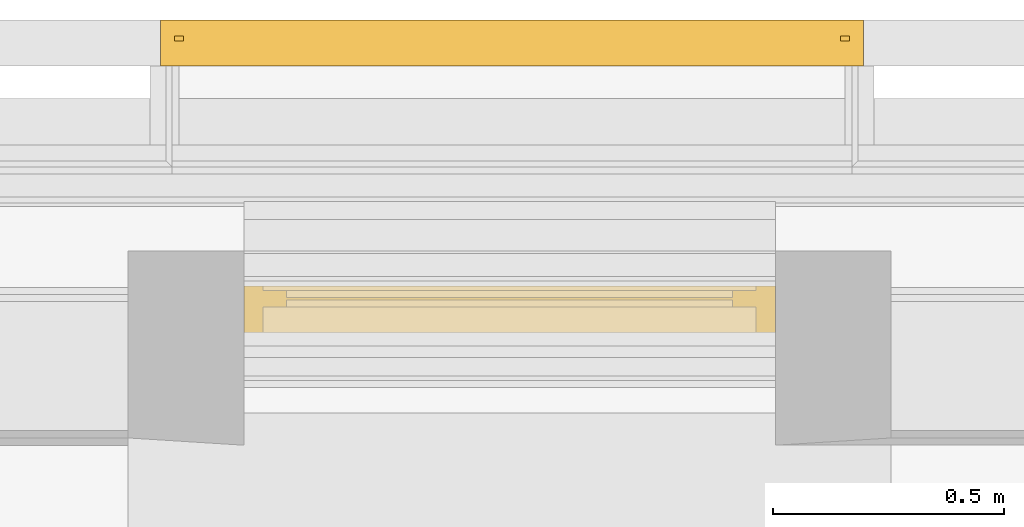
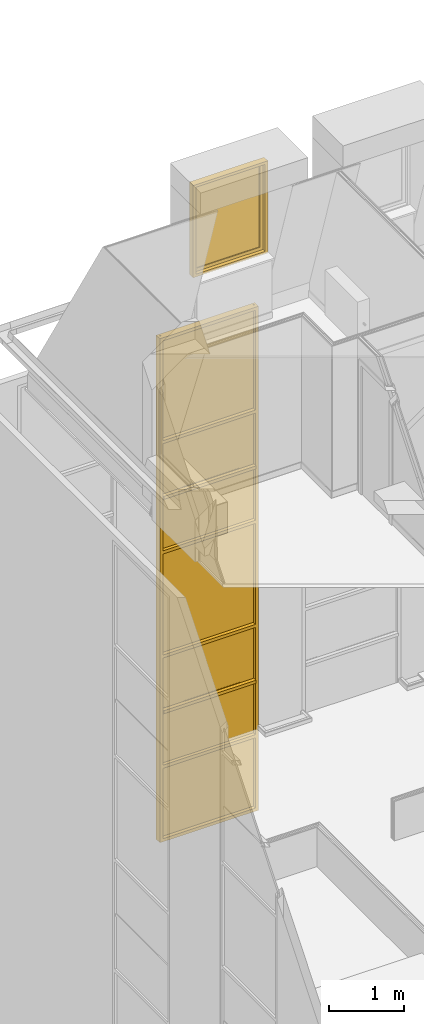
# One storey, part 110 of 169: 1 curtain wall, 1 window.
"""IFC2X3 building model written with IfcOpenShell, lengths in metres."""

from ifc_helpers import new_model, entity, si_unit, converted_unit, derived_unit, money_unit, direction, frame, origin_with_axes, place, context, subcontext, project, spatial, faceted_brep, material, type_object, element, save


model = new_model("IFC2X3")

# Units and contexts
model_context = context("Model", 3, precision=1e-05, world=origin_with_axes(), true_north=direction((0.0, 1.0)))
body_context = subcontext(model_context, "Body", "Model", "MODEL_VIEW", scale=1.0)
ifc_project = project(units=[si_unit("LENGTHUNIT", "METRE"), si_unit("AREAUNIT", "SQUARE_METRE"), si_unit("VOLUMEUNIT", "CUBIC_METRE"), si_unit("ABSORBEDDOSEUNIT", "GRAY"), si_unit("AMOUNTOFSUBSTANCEUNIT", "MOLE"), si_unit("DOSEEQUIVALENTUNIT", "SIEVERT"), si_unit("ELECTRICCAPACITANCEUNIT", "FARAD"), si_unit("ELECTRICCHARGEUNIT", "COULOMB"), si_unit("ELECTRICCONDUCTANCEUNIT", "SIEMENS"), si_unit("ELECTRICCURRENTUNIT", "AMPERE"), si_unit("ELECTRICRESISTANCEUNIT", "OHM"), si_unit("ELECTRICVOLTAGEUNIT", "VOLT"), si_unit("ENERGYUNIT", "JOULE"), si_unit("FORCEUNIT", "NEWTON"), si_unit("FREQUENCYUNIT", "HERTZ"), si_unit("ILLUMINANCEUNIT", "LUX"), si_unit("INDUCTANCEUNIT", "HENRY"), si_unit("LUMINOUSFLUXUNIT", "LUMEN"), si_unit("LUMINOUSINTENSITYUNIT", "CANDELA"), si_unit("MAGNETICFLUXDENSITYUNIT", "TESLA"), si_unit("MAGNETICFLUXUNIT", "WEBER"), si_unit("MASSUNIT", "GRAM"), converted_unit("PLANEANGLEUNIT", "degree", entity("IfcReal", 0.0174532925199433), si_unit("PLANEANGLEUNIT", "RADIAN"), dimensions=[0, 0, 0, 0, 0, 0, 0]), si_unit("POWERUNIT", "WATT"), si_unit("PRESSUREUNIT", "PASCAL"), si_unit("RADIOACTIVITYUNIT", "BECQUEREL"), si_unit("SOLIDANGLEUNIT", "STERADIAN"), si_unit("THERMODYNAMICTEMPERATUREUNIT", "KELVIN"), si_unit("TIMEUNIT", "SECOND"), derived_unit("ACCELERATIONUNIT", [(si_unit("LENGTHUNIT", "METRE"), 1), (si_unit("TIMEUNIT", "SECOND"), -2)]), derived_unit("ANGULARVELOCITYUNIT", [(converted_unit("PLANEANGLEUNIT", "degree", entity("IfcReal", 0.0174532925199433), si_unit("PLANEANGLEUNIT", "RADIAN"), dimensions=[0, 0, 0, 0, 0, 0, 0]), 1), (si_unit("TIMEUNIT", "SECOND"), -1)]), derived_unit("CURVATUREUNIT", [(converted_unit("PLANEANGLEUNIT", "degree", entity("IfcReal", 0.0174532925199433), si_unit("PLANEANGLEUNIT", "RADIAN"), dimensions=[0, 0, 0, 0, 0, 0, 0]), 1), (si_unit("LENGTHUNIT", "METRE"), -1)]), derived_unit("DYNAMICVISCOSITYUNIT", [(si_unit("PRESSUREUNIT", "PASCAL"), 1), (si_unit("TIMEUNIT", "SECOND"), 1)]), derived_unit("HEATFLUXDENSITYUNIT", [(si_unit("POWERUNIT", "WATT"), 1), (si_unit("LENGTHUNIT", "METRE"), -2)]), derived_unit("HEATINGVALUEUNIT", [(si_unit("ENERGYUNIT", "JOULE"), 1), (si_unit("MASSUNIT", "GRAM"), -1)]), derived_unit("INTEGERCOUNTRATEUNIT", [(si_unit("TIMEUNIT", "SECOND"), -1)]), derived_unit("IONCONCENTRATIONUNIT", [(si_unit("MASSUNIT", "GRAM"), 1), (si_unit("VOLUMEUNIT", "CUBIC_METRE"), -1)]), derived_unit("ISOTHERMALMOISTURECAPACITYUNIT", [(si_unit("VOLUMEUNIT", "CUBIC_METRE"), 1), (si_unit("MASSUNIT", "GRAM"), -1)]), derived_unit("KINEMATICVISCOSITYUNIT", [(si_unit("AREAUNIT", "SQUARE_METRE"), 1), (si_unit("TIMEUNIT", "SECOND"), -1)]), derived_unit("LINEARFORCEUNIT", [(si_unit("FORCEUNIT", "NEWTON"), 1), (si_unit("LENGTHUNIT", "METRE"), -1)]), derived_unit("LINEARMOMENTUNIT", [(si_unit("FORCEUNIT", "NEWTON"), 1), (si_unit("LENGTHUNIT", "METRE"), -1)]), derived_unit("LINEARSTIFFNESSUNIT", [(si_unit("FORCEUNIT", "NEWTON"), 1), (si_unit("LENGTHUNIT", "METRE"), -1)]), derived_unit("LINEARVELOCITYUNIT", [(si_unit("LENGTHUNIT", "METRE"), 1), (si_unit("TIMEUNIT", "SECOND"), -1)]), derived_unit("LUMINOUSINTENSITYDISTRIBUTIONUNIT", [(si_unit("LUMINOUSINTENSITYUNIT", "CANDELA"), 1), (si_unit("LUMINOUSFLUXUNIT", "LUMEN"), -1)]), derived_unit("MASSDENSITYUNIT", [(si_unit("MASSUNIT", "GRAM"), 1), (si_unit("VOLUMEUNIT", "CUBIC_METRE"), -1)]), derived_unit("MASSFLOWRATEUNIT", [(si_unit("MASSUNIT", "GRAM"), 1), (si_unit("TIMEUNIT", "SECOND"), -1)]), derived_unit("MASSPERLENGTHUNIT", [(si_unit("MASSUNIT", "GRAM"), 1), (si_unit("LENGTHUNIT", "METRE"), -1)]), derived_unit("MODULUSOFELASTICITYUNIT", [(si_unit("FORCEUNIT", "NEWTON"), 1), (si_unit("AREAUNIT", "SQUARE_METRE"), -1)]), derived_unit("MODULUSOFLINEARSUBGRADEREACTIONUNIT", [(si_unit("FORCEUNIT", "NEWTON"), 1), (si_unit("LENGTHUNIT", "METRE"), -2)]), derived_unit("MODULUSOFROTATIONALSUBGRADEREACTIONUNIT", [(si_unit("FORCEUNIT", "NEWTON"), 1), (si_unit("LENGTHUNIT", "METRE"), 1)]), derived_unit("MODULUSOFSUBGRADEREACTIONUNIT", [(si_unit("FORCEUNIT", "NEWTON"), 1), (si_unit("VOLUMEUNIT", "CUBIC_METRE"), -1)]), derived_unit("MOISTUREDIFFUSIVITYUNIT", [(si_unit("VOLUMEUNIT", "CUBIC_METRE"), 1), (si_unit("TIMEUNIT", "SECOND"), -1)]), derived_unit("MOLECULARWEIGHTUNIT", [(si_unit("MASSUNIT", "GRAM"), 1), (si_unit("AMOUNTOFSUBSTANCEUNIT", "MOLE"), -1)]), derived_unit("PLANARFORCEUNIT", [(si_unit("FORCEUNIT", "NEWTON"), 1), (si_unit("LENGTHUNIT", "METRE"), -2)]), derived_unit("ROTATIONALFREQUENCYUNIT", [(si_unit("TIMEUNIT", "SECOND"), -1)]), derived_unit("ROTATIONALMASSUNIT", [(si_unit("MASSUNIT", "GRAM"), 1), (si_unit("LENGTHUNIT", "METRE"), 2)]), derived_unit("ROTATIONALSTIFFNESSUNIT", [(si_unit("FORCEUNIT", "NEWTON"), 1), (si_unit("LENGTHUNIT", "METRE"), 1), (converted_unit("PLANEANGLEUNIT", "degree", entity("IfcReal", 0.0174532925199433), si_unit("PLANEANGLEUNIT", "RADIAN"), dimensions=[0, 0, 0, 0, 0, 0, 0]), -1)]), derived_unit("SECTIONAREAINTEGRALUNIT", [(si_unit("LENGTHUNIT", "METRE"), 5)]), derived_unit("SECTIONMODULUSUNIT", [(si_unit("LENGTHUNIT", "METRE"), 3)]), derived_unit("SHEARMODULUSUNIT", [(si_unit("FORCEUNIT", "NEWTON"), 1), (si_unit("AREAUNIT", "SQUARE_METRE"), -1)]), derived_unit("SOUNDPOWERUNIT", [(si_unit("ENERGYUNIT", "JOULE"), 1), (si_unit("TIMEUNIT", "SECOND"), -1)]), derived_unit("SPECIFICHEATCAPACITYUNIT", [(si_unit("FORCEUNIT", "NEWTON"), 1), (si_unit("MASSUNIT", "GRAM"), -1), (si_unit("THERMODYNAMICTEMPERATUREUNIT", "KELVIN"), -1)]), derived_unit("TEMPERATUREGRADIENTUNIT", [(si_unit("THERMODYNAMICTEMPERATUREUNIT", "KELVIN"), 1), (si_unit("LENGTHUNIT", "METRE"), -1)]), derived_unit("THERMALADMITTANCEUNIT", [(si_unit("POWERUNIT", "WATT"), 1), (si_unit("AREAUNIT", "SQUARE_METRE"), -1), (si_unit("THERMODYNAMICTEMPERATUREUNIT", "KELVIN"), -1)]), derived_unit("THERMALCONDUCTANCEUNIT", [(si_unit("POWERUNIT", "WATT"), 1), (si_unit("LENGTHUNIT", "METRE"), -1), (si_unit("THERMODYNAMICTEMPERATUREUNIT", "KELVIN"), -1)]), derived_unit("THERMALEXPANSIONCOEFFICIENTUNIT", [(si_unit("THERMODYNAMICTEMPERATUREUNIT", "KELVIN"), -1)]), derived_unit("THERMALRESISTANCEUNIT", [(si_unit("AREAUNIT", "SQUARE_METRE"), 1), (si_unit("POWERUNIT", "WATT"), -1)]), derived_unit("THERMALTRANSMITTANCEUNIT", [(si_unit("POWERUNIT", "WATT"), 1), (si_unit("AREAUNIT", "SQUARE_METRE"), -1), (si_unit("THERMODYNAMICTEMPERATUREUNIT", "KELVIN"), -1)]), derived_unit("TORQUEUNIT", [(si_unit("FORCEUNIT", "NEWTON"), 1), (si_unit("LENGTHUNIT", "METRE"), 1)]), derived_unit("VAPORPERMEABILITYUNIT", [(si_unit("MASSUNIT", "GRAM"), 1), (si_unit("TIMEUNIT", "SECOND"), -1)]), derived_unit("VOLUMETRICFLOWRATEUNIT", [(si_unit("VOLUMEUNIT", "CUBIC_METRE"), 1), (si_unit("TIMEUNIT", "SECOND"), -1)]), derived_unit("WARPINGCONSTANTUNIT", [(si_unit("LENGTHUNIT", "METRE"), 6)]), derived_unit("WARPINGMOMENTUNIT", [(si_unit("FORCEUNIT", "NEWTON"), 1), (si_unit("LENGTHUNIT", "METRE"), 2)]), money_unit("GBP")], contexts=[model_context])

# Site, building, storey
site_placement = place(None, origin_with_axes())
site = spatial("IfcSite", under=ifc_project, at=site_placement, Name="Site", CompositionType="ELEMENT")
building_placement = place(site_placement, origin_with_axes())
building = spatial("IfcBuilding", under=site, at=building_placement, Name="Building01", CompositionType="ELEMENT")
storey_placement = place(building_placement, frame((0.0, 0.0, 5.15), z_axis=(0.0, 0.0, 1.0), x_axis=(1.0, 0.0, 0.0)))
storey = spatial("IfcBuildingStorey", under=building, at=storey_placement, Name="1F", CompositionType="ELEMENT", Elevation=5.15)

# Curtain wall
ifc_material_1 = material(Name="A-CurtainWall_Frame")
curtain_wall_type = type_object("IfcCurtainWallType", Name="Pattern - Maximum Spacing", PredefinedType="NOTDEFINED")
curtain_wall_placement = place(storey_placement, frame((0.0, 0.0, -5.15), z_axis=(0.0, 0.0, 1.0), x_axis=(1.0, 0.0, 0.0)))
element("IfcCurtainWall", 1, at=curtain_wall_placement, inside=storey, type_object=curtain_wall_type, material=ifc_material_1, Name="11", ObjectType="Pattern - Maximum Spacing", context=body_context, shape_type="Brep", body=[
    faceted_brep([(4.38, 14.855, 7.716517), (4.38, 14.865, 7.716517), (2.92, 14.865, 7.716517), (2.92, 14.855, 7.716517), (4.38, 14.855, 6.530918), (4.38, 14.865, 6.530918), (2.92, 14.855, 6.530918), (2.92, 14.865, 6.530918)], [[[0, 1, 2, 3]], [[4, 5, 1, 0]], [[6, 7, 5, 4]], [[3, 2, 7, 6]], [[1, 5, 7, 2]], [[3, 6, 4, 0]]]),
    faceted_brep([(2.89, 14.9, 6.500918), (2.94, 14.9, 6.500918), (2.94, 14.865, 6.500918), (2.92, 14.865, 6.500918), (2.92, 14.855, 6.500918), (2.94, 14.855, 6.500918), (2.94, 14.8, 6.500918), (2.89, 14.8, 6.500918), (2.89, 14.8, 7.721517), (2.89, 14.9, 7.721517), (2.94, 14.9, 7.721517), (2.94, 14.865, 7.721517), (2.92, 14.865, 7.721517), (2.92, 14.855, 7.721517), (2.94, 14.855, 7.721517), (2.94, 14.8, 7.721517)], [[[0, 1, 2, 3, 4, 5, 6, 7]], [[7, 8, 9, 0]], [[0, 9, 10, 1]], [[1, 10, 11, 2]], [[2, 11, 12, 3]], [[3, 12, 13, 4]], [[4, 13, 14, 5]], [[5, 14, 15, 6]], [[6, 15, 8, 7]]]),
    faceted_brep([(4.36, 14.9, 6.550918), (4.36, 14.865, 6.550918), (4.36, 14.865, 6.530918), (4.36, 14.855, 6.530918), (4.36, 14.855, 6.550918), (4.36, 14.8, 6.550918), (4.36, 14.8, 6.500918), (4.36, 14.9, 6.500918), (2.94, 14.9, 6.500918), (2.94, 14.9, 6.550918), (2.94, 14.865, 6.550918), (2.94, 14.865, 6.530918), (2.94, 14.855, 6.530918), (2.94, 14.855, 6.550918), (2.94, 14.8, 6.550918), (2.94, 14.8, 6.500918)], [[[0, 1, 2, 3, 4, 5, 6, 7]], [[7, 8, 9, 0]], [[0, 9, 10, 1]], [[1, 10, 11, 2]], [[2, 11, 12, 3]], [[3, 12, 13, 4]], [[4, 13, 14, 5]], [[5, 14, 15, 6]], [[6, 15, 8, 7]], [[8, 15, 14, 13, 12, 11, 10, 9]]]),
    faceted_brep([(4.41, 14.9, 6.500918), (4.41, 14.9, 7.721517), (4.41, 14.8, 7.721517), (4.41, 14.8, 6.500918), (4.36, 14.9, 6.500918), (4.36, 14.9, 7.721517), (4.36, 14.865, 6.500918), (4.36, 14.865, 7.721517), (4.38, 14.865, 6.500918), (4.38, 14.865, 7.721517), (4.38, 14.855, 6.500918), (4.38, 14.855, 7.721517), (4.36, 14.855, 6.500918), (4.36, 14.855, 7.721517), (4.36, 14.8, 6.500918), (4.36, 14.8, 7.721517)], [[[0, 1, 2, 3]], [[4, 5, 1, 0]], [[6, 7, 5, 4]], [[8, 9, 7, 6]], [[10, 11, 9, 8]], [[12, 13, 11, 10]], [[14, 15, 13, 12]], [[3, 2, 15, 14]], [[14, 12, 10, 8, 6, 4, 0, 3]]]),
    faceted_brep([(2.94, 14.855, 7.726517), (2.94, 14.865, 7.726517), (2.94, 14.865, 7.746517), (2.94, 14.9, 7.746517), (2.94, 14.9, 7.696517), (2.94, 14.865, 7.696517), (2.94, 14.865, 7.716517), (2.94, 14.855, 7.716517), (2.94, 14.855, 7.696517), (2.94, 14.8, 7.696517), (2.94, 14.8, 7.746517), (2.94, 14.855, 7.746517), (4.36, 14.855, 7.746517), (4.36, 14.855, 7.726517), (4.36, 14.865, 7.726517), (4.36, 14.865, 7.746517), (4.36, 14.9, 7.746517), (4.36, 14.9, 7.696517), (4.36, 14.865, 7.696517), (4.36, 14.855, 7.716517), (4.36, 14.855, 7.696517), (4.36, 14.865, 7.716517), (4.36, 14.8, 7.746517), (4.36, 14.8, 7.696517)], [[[0, 1, 2, 3, 4, 5, 6, 7, 8, 9, 10, 11]], [[11, 12, 13, 0]], [[0, 13, 14, 1]], [[1, 14, 15, 2]], [[2, 15, 16, 3]], [[3, 16, 17, 4]], [[4, 17, 18, 5]], [[7, 19, 20, 8]], [[6, 21, 19, 7]], [[5, 18, 21, 6]], [[10, 22, 12, 11]], [[9, 23, 22, 10]], [[8, 20, 23, 9]], [[20, 19, 21, 18, 17, 16, 15, 14, 13, 12, 22, 23]]]),
    faceted_brep([(4.38, 14.85, 8.613217), (4.38, 14.87, 8.613217), (2.92, 14.87, 8.613217), (2.92, 14.85, 8.613217), (4.38, 14.85, 7.726517), (4.38, 14.87, 7.726517), (2.92, 14.85, 7.726517), (2.92, 14.87, 7.726517)], [[[0, 1, 2, 3]], [[4, 5, 1, 0]], [[6, 7, 5, 4]], [[3, 2, 7, 6]], [[1, 5, 7, 2]], [[3, 6, 4, 0]]]),
    faceted_brep([(2.94, 14.8, 8.618217), (2.94, 14.8, 7.721517), (2.94, 14.855, 7.721517), (2.94, 14.855, 8.618217), (2.89, 14.8, 8.618217), (2.89, 14.8, 7.721517), (2.89, 14.9, 8.618217), (2.89, 14.9, 7.721517), (2.94, 14.9, 8.618217), (2.94, 14.9, 7.721517), (2.94, 14.865, 8.618217), (2.94, 14.865, 7.721517), (2.92, 14.865, 8.618217), (2.92, 14.865, 7.721517), (2.92, 14.855, 8.618217), (2.92, 14.855, 7.721517)], [[[0, 1, 2, 3]], [[4, 5, 1, 0]], [[6, 7, 5, 4]], [[8, 9, 7, 6]], [[10, 11, 9, 8]], [[12, 13, 11, 10]], [[14, 15, 13, 12]], [[3, 2, 15, 14]]]),
    faceted_brep([(4.41, 14.9, 7.721517), (4.41, 14.9, 8.618217), (4.41, 14.8, 8.618217), (4.41, 14.8, 7.721517), (4.36, 14.9, 7.721517), (4.36, 14.9, 8.618217), (4.36, 14.865, 7.721517), (4.36, 14.865, 8.618217), (4.38, 14.865, 7.721517), (4.38, 14.865, 8.618217), (4.38, 14.855, 7.721517), (4.38, 14.855, 8.618217), (4.36, 14.855, 7.721517), (4.36, 14.855, 8.618217), (4.36, 14.8, 7.721517), (4.36, 14.8, 8.618217)], [[[0, 1, 2, 3]], [[4, 5, 1, 0]], [[6, 7, 5, 4]], [[8, 9, 7, 6]], [[10, 11, 9, 8]], [[12, 13, 11, 10]], [[14, 15, 13, 12]], [[3, 2, 15, 14]]]),
    faceted_brep([(2.94, 14.8375, 8.623217), (2.94, 14.8475, 8.623217), (2.94, 14.8475, 8.643217), (2.94, 14.8825, 8.643217), (2.94, 14.8825, 8.593217), (2.94, 14.8475, 8.593217), (2.94, 14.8475, 8.613217), (2.94, 14.8375, 8.613217), (2.94, 14.8375, 8.593217), (2.94, 14.7825, 8.593217), (2.94, 14.7825, 8.643217), (2.94, 14.8375, 8.643217), (4.36, 14.8375, 8.643217), (4.36, 14.8375, 8.623217), (4.36, 14.8475, 8.623217), (4.36, 14.8475, 8.643217), (4.36, 14.8825, 8.643217), (4.36, 14.8825, 8.593217), (4.36, 14.8475, 8.593217), (4.36, 14.8375, 8.613217), (4.36, 14.8375, 8.593217), (4.36, 14.8475, 8.613217), (4.36, 14.7825, 8.643217), (4.36, 14.7825, 8.593217)], [[[0, 1, 2, 3, 4, 5, 6, 7, 8, 9, 10, 11]], [[11, 12, 13, 0]], [[0, 13, 14, 1]], [[1, 14, 15, 2]], [[2, 15, 16, 3]], [[3, 16, 17, 4]], [[4, 17, 18, 5]], [[7, 19, 20, 8]], [[6, 21, 19, 7]], [[5, 18, 21, 6]], [[10, 22, 12, 11]], [[9, 23, 22, 10]], [[8, 20, 23, 9]], [[20, 19, 21, 18, 17, 16, 15, 14, 13, 12, 22, 23]]]),
    faceted_brep([(4.38, 14.85, 9.509916), (4.38, 14.87, 9.509916), (2.92, 14.87, 9.509916), (2.92, 14.85, 9.509916), (4.38, 14.85, 8.623217), (4.38, 14.87, 8.623217), (2.92, 14.85, 8.623217), (2.92, 14.87, 8.623217)], [[[0, 1, 2, 3]], [[4, 5, 1, 0]], [[6, 7, 5, 4]], [[3, 2, 7, 6]], [[1, 5, 7, 2]], [[3, 6, 4, 0]]]),
    faceted_brep([(2.94, 14.8, 9.514916), (2.94, 14.8, 8.618217), (2.94, 14.855, 8.618217), (2.94, 14.855, 9.514916), (2.89, 14.8, 9.514916), (2.89, 14.8, 8.618217), (2.89, 14.9, 9.514916), (2.89, 14.9, 8.618217), (2.94, 14.9, 9.514916), (2.94, 14.9, 8.618217), (2.94, 14.865, 9.514916), (2.94, 14.865, 8.618217), (2.92, 14.865, 9.514916), (2.92, 14.865, 8.618217), (2.92, 14.855, 9.514916), (2.92, 14.855, 8.618217)], [[[0, 1, 2, 3]], [[4, 5, 1, 0]], [[6, 7, 5, 4]], [[8, 9, 7, 6]], [[10, 11, 9, 8]], [[12, 13, 11, 10]], [[14, 15, 13, 12]], [[3, 2, 15, 14]]]),
    faceted_brep([(4.41, 14.9, 8.618217), (4.41, 14.9, 9.514916), (4.41, 14.8, 9.514916), (4.41, 14.8, 8.618217), (4.36, 14.9, 8.618217), (4.36, 14.9, 9.514916), (4.36, 14.865, 8.618217), (4.36, 14.865, 9.514916), (4.38, 14.865, 8.618217), (4.38, 14.865, 9.514916), (4.38, 14.855, 8.618217), (4.38, 14.855, 9.514916), (4.36, 14.855, 8.618217), (4.36, 14.855, 9.514916), (4.36, 14.8, 8.618217), (4.36, 14.8, 9.514916)], [[[0, 1, 2, 3]], [[4, 5, 1, 0]], [[6, 7, 5, 4]], [[8, 9, 7, 6]], [[10, 11, 9, 8]], [[12, 13, 11, 10]], [[14, 15, 13, 12]], [[3, 2, 15, 14]]]),
    faceted_brep([(2.94, 14.855, 9.519916), (2.94, 14.865, 9.519916), (2.94, 14.865, 9.539916), (2.94, 14.9, 9.539916), (2.94, 14.9, 9.489916), (2.94, 14.865, 9.489916), (2.94, 14.865, 9.509916), (2.94, 14.855, 9.509916), (2.94, 14.855, 9.489916), (2.94, 14.8, 9.489916), (2.94, 14.8, 9.539916), (2.94, 14.855, 9.539916), (4.36, 14.855, 9.539916), (4.36, 14.855, 9.519916), (4.36, 14.865, 9.519916), (4.36, 14.865, 9.539916), (4.36, 14.9, 9.539916), (4.36, 14.9, 9.489916), (4.36, 14.865, 9.489916), (4.36, 14.855, 9.509916), (4.36, 14.855, 9.489916), (4.36, 14.865, 9.509916), (4.36, 14.8, 9.539916), (4.36, 14.8, 9.489916)], [[[0, 1, 2, 3, 4, 5, 6, 7, 8, 9, 10, 11]], [[11, 12, 13, 0]], [[0, 13, 14, 1]], [[1, 14, 15, 2]], [[2, 15, 16, 3]], [[3, 16, 17, 4]], [[4, 17, 18, 5]], [[7, 19, 20, 8]], [[6, 21, 19, 7]], [[5, 18, 21, 6]], [[10, 22, 12, 11]], [[9, 23, 22, 10]], [[8, 20, 23, 9]], [[20, 19, 21, 18, 17, 16, 15, 14, 13, 12, 22, 23]]]),
    faceted_brep([(4.38, 14.855, 11.203681), (4.38, 14.865, 11.203681), (2.92, 14.865, 11.203681), (2.92, 14.855, 11.203681), (4.38, 14.855, 9.519916), (4.38, 14.865, 9.519916), (2.92, 14.855, 9.519916), (2.92, 14.865, 9.519916)], [[[0, 1, 2, 3]], [[4, 5, 1, 0]], [[6, 7, 5, 4]], [[3, 2, 7, 6]], [[1, 5, 7, 2]], [[3, 6, 4, 0]]]),
    faceted_brep([(2.94, 14.8, 11.208681), (2.94, 14.8, 9.514916), (2.94, 14.855, 9.514916), (2.94, 14.855, 11.208681), (2.89, 14.8, 11.208681), (2.89, 14.8, 9.514916), (2.89, 14.9, 11.208681), (2.89, 14.9, 9.514916), (2.94, 14.9, 11.208681), (2.94, 14.9, 9.514916), (2.94, 14.865, 11.208681), (2.94, 14.865, 9.514916), (2.92, 14.865, 11.208681), (2.92, 14.865, 9.514916), (2.92, 14.855, 11.208681), (2.92, 14.855, 9.514916)], [[[0, 1, 2, 3]], [[4, 5, 1, 0]], [[6, 7, 5, 4]], [[8, 9, 7, 6]], [[10, 11, 9, 8]], [[12, 13, 11, 10]], [[14, 15, 13, 12]], [[3, 2, 15, 14]]]),
    faceted_brep([(4.41, 14.9, 9.514916), (4.41, 14.9, 11.208681), (4.41, 14.8, 11.208681), (4.41, 14.8, 9.514916), (4.36, 14.9, 9.514916), (4.36, 14.9, 11.208681), (4.36, 14.865, 9.514916), (4.36, 14.865, 11.208681), (4.38, 14.865, 9.514916), (4.38, 14.865, 11.208681), (4.38, 14.855, 9.514916), (4.38, 14.855, 11.208681), (4.36, 14.855, 9.514916), (4.36, 14.855, 11.208681), (4.36, 14.8, 9.514916), (4.36, 14.8, 11.208681)], [[[0, 1, 2, 3]], [[4, 5, 1, 0]], [[6, 7, 5, 4]], [[8, 9, 7, 6]], [[10, 11, 9, 8]], [[12, 13, 11, 10]], [[14, 15, 13, 12]], [[3, 2, 15, 14]]]),
    faceted_brep([(2.94, 14.855, 11.213681), (2.94, 14.865, 11.213681), (2.94, 14.865, 11.233681), (2.94, 14.9, 11.233681), (2.94, 14.9, 11.183681), (2.94, 14.865, 11.183681), (2.94, 14.865, 11.203681), (2.94, 14.855, 11.203681), (2.94, 14.855, 11.183681), (2.94, 14.8, 11.183681), (2.94, 14.8, 11.233681), (2.94, 14.855, 11.233681), (4.36, 14.855, 11.233681), (4.36, 14.855, 11.213681), (4.36, 14.865, 11.213681), (4.36, 14.865, 11.233681), (4.36, 14.9, 11.233681), (4.36, 14.9, 11.183681), (4.36, 14.865, 11.183681), (4.36, 14.855, 11.203681), (4.36, 14.855, 11.183681), (4.36, 14.865, 11.203681), (4.36, 14.8, 11.233681), (4.36, 14.8, 11.183681)], [[[0, 1, 2, 3, 4, 5, 6, 7, 8, 9, 10, 11]], [[11, 12, 13, 0]], [[0, 13, 14, 1]], [[1, 14, 15, 2]], [[2, 15, 16, 3]], [[3, 16, 17, 4]], [[4, 17, 18, 5]], [[7, 19, 20, 8]], [[6, 21, 19, 7]], [[5, 18, 21, 6]], [[10, 22, 12, 11]], [[9, 23, 22, 10]], [[8, 20, 23, 9]], [[20, 19, 21, 18, 17, 16, 15, 14, 13, 12, 22, 23]]]),
    faceted_brep([(4.38, 14.85, 12.10038), (4.38, 14.87, 12.10038), (2.92, 14.87, 12.10038), (2.92, 14.85, 12.10038), (4.38, 14.85, 11.213681), (4.38, 14.87, 11.213681), (2.92, 14.85, 11.213681), (2.92, 14.87, 11.213681)], [[[0, 1, 2, 3]], [[4, 5, 1, 0]], [[6, 7, 5, 4]], [[3, 2, 7, 6]], [[1, 5, 7, 2]], [[3, 6, 4, 0]]]),
    faceted_brep([(2.94, 14.8, 12.10538), (2.94, 14.8, 11.208681), (2.94, 14.855, 11.208681), (2.94, 14.855, 12.10538), (2.89, 14.8, 12.10538), (2.89, 14.8, 11.208681), (2.89, 14.9, 12.10538), (2.89, 14.9, 11.208681), (2.94, 14.9, 12.10538), (2.94, 14.9, 11.208681), (2.94, 14.865, 12.10538), (2.94, 14.865, 11.208681), (2.92, 14.865, 12.10538), (2.92, 14.865, 11.208681), (2.92, 14.855, 12.10538), (2.92, 14.855, 11.208681)], [[[0, 1, 2, 3]], [[4, 5, 1, 0]], [[6, 7, 5, 4]], [[8, 9, 7, 6]], [[10, 11, 9, 8]], [[12, 13, 11, 10]], [[14, 15, 13, 12]], [[3, 2, 15, 14]]]),
    faceted_brep([(4.41, 14.9, 11.208681), (4.41, 14.9, 12.10538), (4.41, 14.8, 12.10538), (4.41, 14.8, 11.208681), (4.36, 14.9, 11.208681), (4.36, 14.9, 12.10538), (4.36, 14.865, 11.208681), (4.36, 14.865, 12.10538), (4.38, 14.865, 11.208681), (4.38, 14.865, 12.10538), (4.38, 14.855, 11.208681), (4.38, 14.855, 12.10538), (4.36, 14.855, 11.208681), (4.36, 14.855, 12.10538), (4.36, 14.8, 11.208681), (4.36, 14.8, 12.10538)], [[[0, 1, 2, 3]], [[4, 5, 1, 0]], [[6, 7, 5, 4]], [[8, 9, 7, 6]], [[10, 11, 9, 8]], [[12, 13, 11, 10]], [[14, 15, 13, 12]], [[3, 2, 15, 14]]]),
    faceted_brep([(2.94, 14.8375, 12.11038), (2.94, 14.8475, 12.11038), (2.94, 14.8475, 12.13038), (2.94, 14.8825, 12.13038), (2.94, 14.8825, 12.08038), (2.94, 14.8475, 12.08038), (2.94, 14.8475, 12.10038), (2.94, 14.8375, 12.10038), (2.94, 14.8375, 12.08038), (2.94, 14.7825, 12.08038), (2.94, 14.7825, 12.13038), (2.94, 14.8375, 12.13038), (4.36, 14.8375, 12.13038), (4.36, 14.8375, 12.11038), (4.36, 14.8475, 12.11038), (4.36, 14.8475, 12.13038), (4.36, 14.8825, 12.13038), (4.36, 14.8825, 12.08038), (4.36, 14.8475, 12.08038), (4.36, 14.8375, 12.10038), (4.36, 14.8375, 12.08038), (4.36, 14.8475, 12.10038), (4.36, 14.7825, 12.13038), (4.36, 14.7825, 12.08038)], [[[0, 1, 2, 3, 4, 5, 6, 7, 8, 9, 10, 11]], [[11, 12, 13, 0]], [[0, 13, 14, 1]], [[1, 14, 15, 2]], [[2, 15, 16, 3]], [[3, 16, 17, 4]], [[4, 17, 18, 5]], [[7, 19, 20, 8]], [[6, 21, 19, 7]], [[5, 18, 21, 6]], [[10, 22, 12, 11]], [[9, 23, 22, 10]], [[8, 20, 23, 9]], [[20, 19, 21, 18, 17, 16, 15, 14, 13, 12, 22, 23]]]),
    faceted_brep([(2.92, 14.855, 13.00708), (2.92, 14.865, 13.00708), (4.38, 14.865, 13.00708), (4.38, 14.855, 13.00708), (2.92, 14.855, 14.670918), (2.92, 14.865, 14.670918), (4.38, 14.855, 14.670918), (4.38, 14.865, 14.670918)], [[[0, 1, 2, 3]], [[4, 5, 1, 0]], [[6, 7, 5, 4]], [[3, 2, 7, 6]], [[1, 5, 7, 2]], [[3, 6, 4, 0]]]),
    faceted_brep([(4.41, 14.9, 14.700918), (4.36, 14.9, 14.700918), (4.36, 14.865, 14.700918), (4.38, 14.865, 14.700918), (4.38, 14.855, 14.700918), (4.36, 14.855, 14.700918), (4.36, 14.8, 14.700918), (4.41, 14.8, 14.700918), (4.41, 14.8, 13.00208), (4.41, 14.9, 13.00208), (4.36, 14.9, 13.00208), (4.36, 14.865, 13.00208), (4.38, 14.865, 13.00208), (4.38, 14.855, 13.00208), (4.36, 14.855, 13.00208), (4.36, 14.8, 13.00208)], [[[0, 1, 2, 3, 4, 5, 6, 7]], [[7, 8, 9, 0]], [[0, 9, 10, 1]], [[1, 10, 11, 2]], [[2, 11, 12, 3]], [[3, 12, 13, 4]], [[4, 13, 14, 5]], [[5, 14, 15, 6]], [[6, 15, 8, 7]]]),
    faceted_brep([(2.94, 14.865, 14.670918), (2.94, 14.855, 14.670918), (2.94, 14.855, 14.650918), (2.94, 14.8, 14.650918), (2.94, 14.8, 14.700918), (2.94, 14.9, 14.700918), (2.94, 14.9, 14.650918), (2.94, 14.865, 14.650918), (4.36, 14.865, 14.650918), (4.36, 14.865, 14.670918), (4.36, 14.855, 14.670918), (4.36, 14.855, 14.650918), (4.36, 14.8, 14.650918), (4.36, 14.8, 14.700918), (4.36, 14.9, 14.700918), (4.36, 14.9, 14.650918)], [[[0, 1, 2, 3, 4, 5, 6, 7]], [[7, 8, 9, 0]], [[0, 9, 10, 1]], [[1, 10, 11, 2]], [[2, 11, 12, 3]], [[3, 12, 13, 4]], [[4, 13, 14, 5]], [[5, 14, 15, 6]], [[6, 15, 8, 7]], [[8, 15, 14, 13, 12, 11, 10, 9]]]),
    faceted_brep([(2.89, 14.9, 14.700918), (2.89, 14.9, 13.00208), (2.89, 14.8, 13.00208), (2.89, 14.8, 14.700918), (2.94, 14.9, 14.700918), (2.94, 14.9, 13.00208), (2.94, 14.865, 14.700918), (2.94, 14.865, 13.00208), (2.92, 14.865, 14.700918), (2.92, 14.865, 13.00208), (2.92, 14.855, 14.700918), (2.92, 14.855, 13.00208), (2.94, 14.855, 14.700918), (2.94, 14.855, 13.00208), (2.94, 14.8, 14.700918), (2.94, 14.8, 13.00208)], [[[0, 1, 2, 3]], [[4, 5, 1, 0]], [[6, 7, 5, 4]], [[8, 9, 7, 6]], [[10, 11, 9, 8]], [[12, 13, 11, 10]], [[14, 15, 13, 12]], [[3, 2, 15, 14]], [[14, 12, 10, 8, 6, 4, 0, 3]]]),
    faceted_brep([(4.36, 14.865, 13.00708), (4.36, 14.855, 13.00708), (4.36, 14.855, 13.02708), (4.36, 14.8, 13.02708), (4.36, 14.8, 12.97708), (4.36, 14.855, 12.97708), (4.36, 14.855, 12.99708), (4.36, 14.865, 12.99708), (4.36, 14.865, 12.97708), (4.36, 14.9, 12.97708), (4.36, 14.9, 13.02708), (4.36, 14.865, 13.02708), (2.94, 14.865, 13.02708), (2.94, 14.865, 13.00708), (2.94, 14.855, 13.00708), (2.94, 14.855, 13.02708), (2.94, 14.8, 13.02708), (2.94, 14.8, 12.97708), (2.94, 14.855, 12.97708), (2.94, 14.865, 12.99708), (2.94, 14.865, 12.97708), (2.94, 14.855, 12.99708), (2.94, 14.9, 13.02708), (2.94, 14.9, 12.97708)], [[[0, 1, 2, 3, 4, 5, 6, 7, 8, 9, 10, 11]], [[11, 12, 13, 0]], [[0, 13, 14, 1]], [[1, 14, 15, 2]], [[2, 15, 16, 3]], [[3, 16, 17, 4]], [[4, 17, 18, 5]], [[7, 19, 20, 8]], [[6, 21, 19, 7]], [[5, 18, 21, 6]], [[10, 22, 12, 11]], [[9, 23, 22, 10]], [[8, 20, 23, 9]], [[20, 19, 21, 18, 17, 16, 15, 14, 13, 12, 22, 23]]]),
    faceted_brep([(4.38, 14.85, 12.99708), (4.38, 14.87, 12.99708), (2.92, 14.87, 12.99708), (2.92, 14.85, 12.99708), (4.38, 14.85, 12.11038), (4.38, 14.87, 12.11038), (2.92, 14.85, 12.11038), (2.92, 14.87, 12.11038)], [[[0, 1, 2, 3]], [[4, 5, 1, 0]], [[6, 7, 5, 4]], [[3, 2, 7, 6]], [[1, 5, 7, 2]], [[3, 6, 4, 0]]]),
    faceted_brep([(2.94, 14.8, 13.00208), (2.94, 14.8, 12.10538), (2.94, 14.855, 12.10538), (2.94, 14.855, 13.00208), (2.89, 14.8, 13.00208), (2.89, 14.8, 12.10538), (2.89, 14.9, 13.00208), (2.89, 14.9, 12.10538), (2.94, 14.9, 13.00208), (2.94, 14.9, 12.10538), (2.94, 14.865, 13.00208), (2.94, 14.865, 12.10538), (2.92, 14.865, 13.00208), (2.92, 14.865, 12.10538), (2.92, 14.855, 13.00208), (2.92, 14.855, 12.10538)], [[[0, 1, 2, 3]], [[4, 5, 1, 0]], [[6, 7, 5, 4]], [[8, 9, 7, 6]], [[10, 11, 9, 8]], [[12, 13, 11, 10]], [[14, 15, 13, 12]], [[3, 2, 15, 14]]]),
    faceted_brep([(4.41, 14.9, 12.10538), (4.41, 14.9, 13.00208), (4.41, 14.8, 13.00208), (4.41, 14.8, 12.10538), (4.36, 14.9, 12.10538), (4.36, 14.9, 13.00208), (4.36, 14.865, 12.10538), (4.36, 14.865, 13.00208), (4.38, 14.865, 12.10538), (4.38, 14.865, 13.00208), (4.38, 14.855, 12.10538), (4.38, 14.855, 13.00208), (4.36, 14.855, 12.10538), (4.36, 14.855, 13.00208), (4.36, 14.8, 12.10538), (4.36, 14.8, 13.00208)], [[[0, 1, 2, 3]], [[4, 5, 1, 0]], [[6, 7, 5, 4]], [[8, 9, 7, 6]], [[10, 11, 9, 8]], [[12, 13, 11, 10]], [[14, 15, 13, 12]], [[3, 2, 15, 14]]]),
])

# Space
space_placement = place(storey_placement, frame((1.009939, 13.890379, 9.86), z_axis=(0.0, 0.0, 1.0), x_axis=(0.0, -1.0, 0.0)))
space = spatial("IfcSpace", under=storey, at=space_placement, Name="26", CompositionType="ELEMENT", InteriorOrExteriorSpace="NOTDEFINED")

# Window
ifc_material_2 = material(Name="A_BSUK_Windows")
window_style = type_object("IfcWindowStyle", Name="A-Awning", ConstructionType="NOTDEFINED", OperationType="USERDEFINED", ParameterTakesPrecedence=False, Sizeable=False)
window_placement = place(storey_placement, frame((3.070024, 14.350096, 10.83), z_axis=(0.0, 0.0, 1.0), x_axis=(-1.0, 0.0, 0.0)))
element("IfcWindow", 2, at=window_placement, inside=space, type_object=window_style, material=ifc_material_2, Name="4.14", ObjectType="A-Awning", OverallHeight=1.50000000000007, OverallWidth=1.15000000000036, context=body_context, shape_type="Brep", body=[
    faceted_brep([(-1.108, 0.0254, 0.042), (-0.042, 0.0254, 0.042), (-0.042, 0.1254, 0.042), (-1.108, 0.1254, 0.042), (-1.108, 0.0254, 1.458), (-1.108, 0.1254, 1.458), (-0.042, 0.0254, 1.458), (-0.042, 0.1254, 1.458), (0.0, 0.0254, 0.0), (0.0, 0.0254, 1.5), (-1.15, 0.0254, 1.5), (-1.15, 0.0254, 0.0), (0.0, 0.1254, 1.5), (-1.15, 0.1254, 1.5), (-1.15, 0.1254, 0.0), (0.0, 0.1254, 0.0)], [[[0, 1, 2, 3]], [[4, 0, 3, 5]], [[6, 4, 5, 7]], [[8, 9, 10, 11], [4, 6, 1, 0]], [[1, 6, 7, 2]], [[12, 13, 10, 9]], [[14, 15, 8, 11]], [[13, 14, 11, 10]], [[13, 12, 15, 14], [2, 7, 5, 3]], [[15, 12, 9, 8]]]),
    faceted_brep([(-1.0572, 0.0354, 0.0928), (-0.0928, 0.0354, 0.0928), (-0.0928, 0.0704, 0.0928), (-1.0572, 0.0704, 0.0928), (-1.0572, 0.0354, 1.4072), (-1.0572, 0.0704, 1.4072), (-0.0928, 0.0354, 1.4072), (-0.0928, 0.0704, 1.4072), (-1.108, 0.0704, 1.458), (-0.042, 0.0704, 1.458), (-0.042, 0.0704, 0.042), (-1.108, 0.0704, 0.042), (-1.108, 0.0354, 1.458), (-0.042, 0.0354, 1.458), (-0.042, 0.0354, 0.042), (-1.108, 0.0354, 0.042)], [[[0, 1, 2, 3]], [[4, 0, 3, 5]], [[6, 4, 5, 7]], [[8, 9, 10, 11], [2, 7, 5, 3]], [[9, 8, 12, 13]], [[10, 9, 13, 14]], [[11, 10, 14, 15]], [[8, 11, 15, 12]], [[14, 13, 12, 15], [4, 6, 1, 0]], [[1, 6, 7, 2]]]),
    faceted_brep([(-0.0928, 0.049725, 0.0928), (-0.0928, 0.056075, 0.0928), (-0.0928, 0.056075, 1.4072), (-0.0928, 0.049725, 1.4072), (-1.0572, 0.049725, 1.4072), (-1.0572, 0.056075, 1.4072), (-1.0572, 0.056075, 0.0928), (-1.0572, 0.049725, 0.0928)], [[[0, 1, 2, 3]], [[4, 5, 6, 7]], [[3, 2, 5, 4]], [[3, 4, 7, 0]], [[7, 6, 1, 0]], [[1, 6, 5, 2]]]),
])

save(model, "model.ifc")
